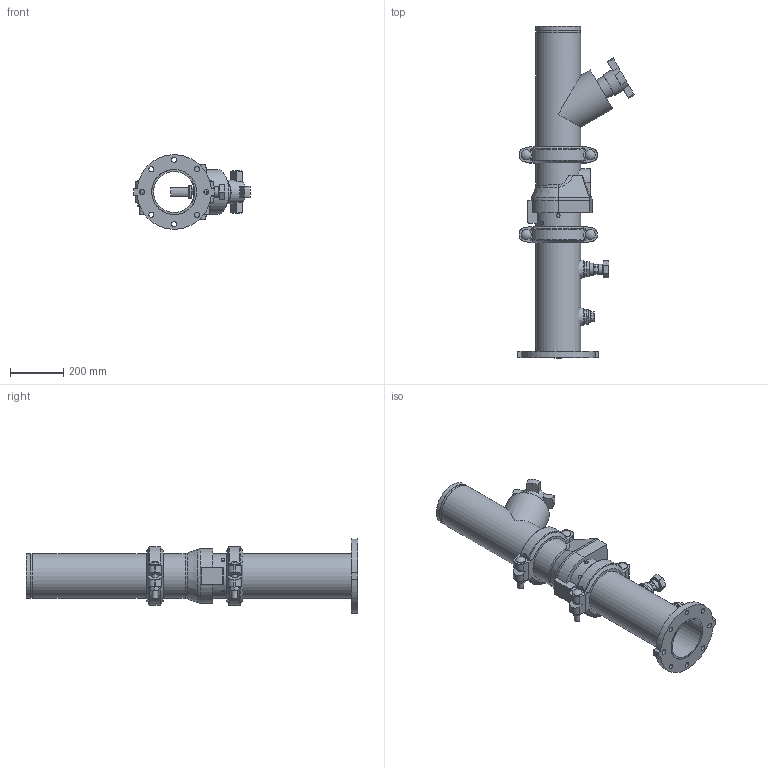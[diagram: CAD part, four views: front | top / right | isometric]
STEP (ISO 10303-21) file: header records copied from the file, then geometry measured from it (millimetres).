
FILE_DESCRIPTION(/* description */ ('VIC DVI PUMP DROP VERT S/383 (OGSxFLG) (S/924-1.25)','CAx-IF Rec.Pracs.---Representation and Presentation of Product Manufacturing Information (PMI)---4.0---2014-10-13'),/* implementation_level */ '2;1');
FILE_NAME(/* name */ 'C:\Users\Public\Documents\Victaulic.Temp\A849\Victaulic_IPS_Vertical DVI_CL 150_Series 383 (OGSxFLG)_924 (1.25)_06.0x06.0 (150x150).stp',/* time_stamp */ '2022-07-25T11:41:02+02:00',/* author */ ('Vjadhav'),/* organization */ ('Victaulic'),/* preprocessor_version */ 'ST-DEVELOPER v18',/* originating_system */ 'Autodesk Inventor 2020',/* authorisation */ '');
FILE_SCHEMA (('AP242_MANAGED_MODEL_BASED_3D_ENGINEERING_MIM_LF { 1 0 10303 442 1 1 4 }'));
Length unit declared in the file: inch
Products named in the file (8): 383_924 (1.25)-06.0x06.0; 741-06.0; Pipe-06.0x06.0; 177N-06.0; 789-06.0; 779-06.0; 924-04.0x01.25; 923-04.0x0.75
Assembly tree (8 placements, depth 2):
  383_924 (1.25)-06.0x06.0
    741-06.0
    Pipe-06.0x06.0
    177N-06.0  x2
    789-06.0
    779-06.0
    924-04.0x01.25
    923-04.0x0.75
Bounding box: 438.15 x 1243.08 x 278.34 mm (x, y, z)
Volume: 13138942.1 mm3; surface area: 1962359.3 mm2
Topology: 8 solids, 9 shells, 437 faces, 1146 edges, 771 vertices
Faces by surface type: plane 259, cylinder 145, torus 14, cone 13, sphere 4, bspline 2
Full cylindrical faces by diameter (mm): 13.716 x4, 19.05 x8, 21.209 x4, 21.336 x1, 26.67 x2, 37.694 x4, 38.608 x1, 42.164 x1, 45.974 x4, 48.514 x1, 55.626 x2, 79.375 x1, 88.9 x1, 154.051 x3, 155.575 x2, 163.957 x6, 168.275 x16
Entity records: 12018 total; most frequent: CARTESIAN_POINT 2478, DIRECTION 1965, ORIENTED_EDGE 1786, EDGE_CURVE 893, AXIS2_PLACEMENT_3D 742, VERTEX_POINT 603, LINE 481, VECTOR 481
